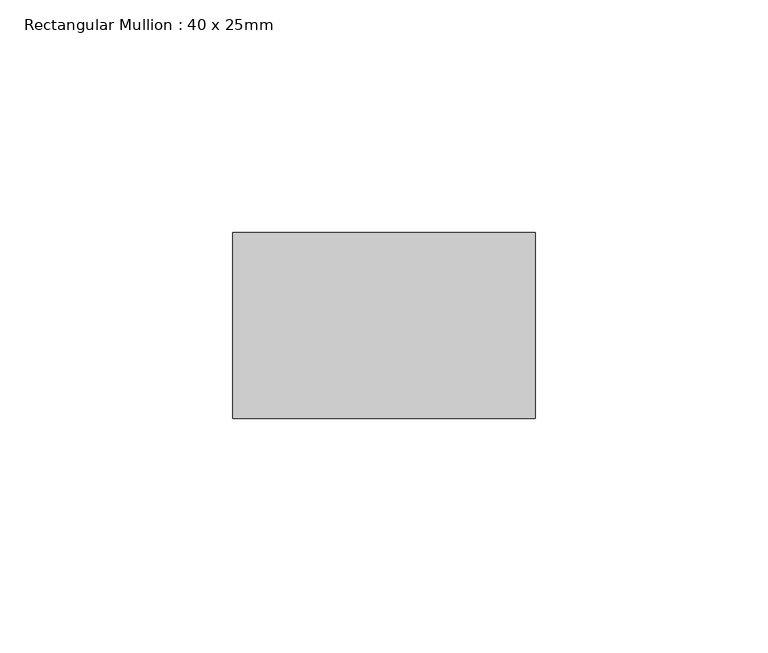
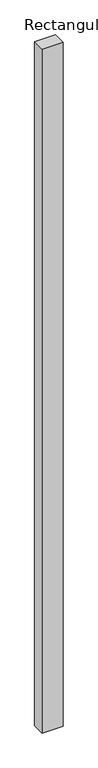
"""IFC4 building model written with IfcOpenShell, lengths in millimetres: member geometry, Rectangular Mullion : 40 x 25mm."""

from ifc_helpers import new_model, si_unit, frame, origin, place, context, project, spatial, polyline, outline, extrude, source, transform, mapped, element, save


def rectangular_mullion_40_x_25mm_4fc71e21(model_context):
    return source(origin(), model_context, "Body", "SweptSolid", [
        extrude(outline(polyline([(0.0, -20.0), (0.0, -60.0), (-65.0, -60.0), (-65.0, -20.0), (0.0, -20.0)])), frame((0.0, 0.0, -2255.5), z_axis=(0.0, 0.0, 1.0), x_axis=(1.0, 0.0, 0.0)), (0.0, 0.0, 1.0), 2255.5),
    ])


if __name__ == "__main__":
    model = new_model("IFC4")
    model_context = context("Model", 3, world=origin())
    ifc_project = project(units=[si_unit("LENGTHUNIT", "METRE", prefix="MILLI")], contexts=[model_context])
    site = spatial("IfcSite", under=ifc_project)
    building = spatial("IfcBuilding", under=site)
    placement = place(None, origin())
    rectangular_mullion_40_x_25mm_shape = rectangular_mullion_40_x_25mm_4fc71e21(model_context)
    element("IfcMember", 1, ObjectType="Rectangular Mullion : 40 x 25mm", at=placement, inside=building, context=model_context, shape_type="MappedRepresentation", body=[
        mapped(rectangular_mullion_40_x_25mm_shape, transform((0.0, 0.0, 0.0), x_axis=(1.0, 0.0, 0.0), y_axis=(0.0, 1.0, 0.0), z_axis=(0.0, 0.0, 1.0))),
    ])
    save(model, "model.ifc")
